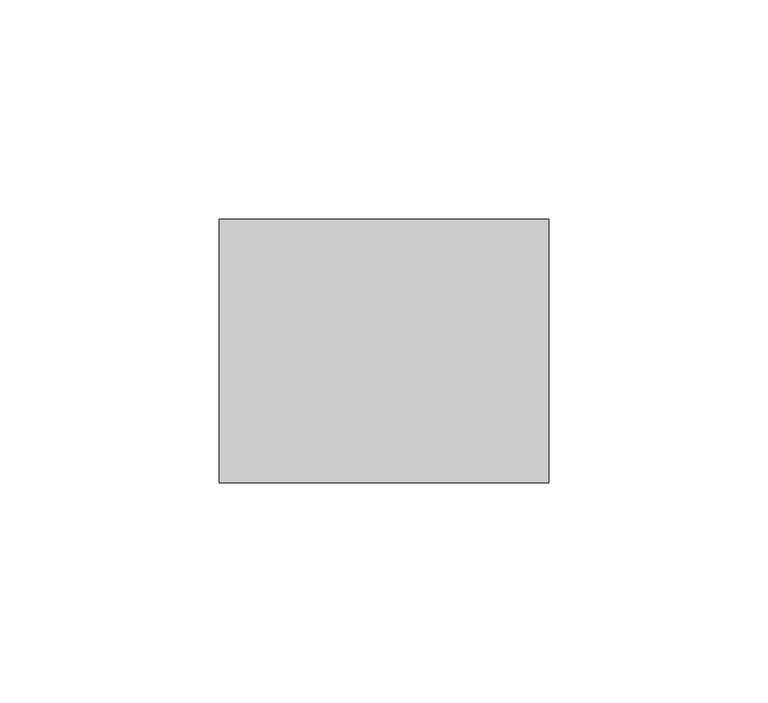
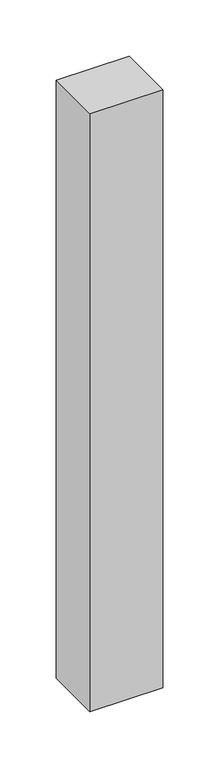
"""IFC4 building model written with IfcOpenShell, lengths in millimetres: proxy geometry, Брус : 60х75."""

from ifc_helpers import new_model, si_unit, origin, origin_with_axes, place, context, project, spatial, polyline, outline, extrude, source, transform, mapped, element, save


def generic_models_916a9b82(model_context):
    return source(origin(), model_context, "Body", "SweptSolid", [
        extrude(outline(polyline([(75.0, 0.0), (0.0, 0.0), (0.0, 60.0), (75.0, 60.0), (75.0, 0.0)])), origin_with_axes(), (0.0, 0.0, 1.0), 650.0),
    ])


if __name__ == "__main__":
    model = new_model("IFC4")
    model_context = context("Model", 3, world=origin())
    ifc_project = project(units=[si_unit("LENGTHUNIT", "METRE", prefix="MILLI")], contexts=[model_context])
    site = spatial("IfcSite", under=ifc_project)
    building = spatial("IfcBuilding", under=site)
    placement = place(None, origin())
    generic_models_shape = generic_models_916a9b82(model_context)
    element("IfcBuildingElementProxy", 1, Name="Брус : 60х75", ObjectType="Брус : 60х75", at=placement, inside=building, context=model_context, shape_type="MappedRepresentation", body=[
        mapped(generic_models_shape, transform((0.0, 0.0, 0.0), x_axis=(1.0, 0.0, 0.0), y_axis=(0.0, 1.0, 0.0), z_axis=(0.0, 0.0, 1.0))),
    ])
    save(model, "model.ifc")
